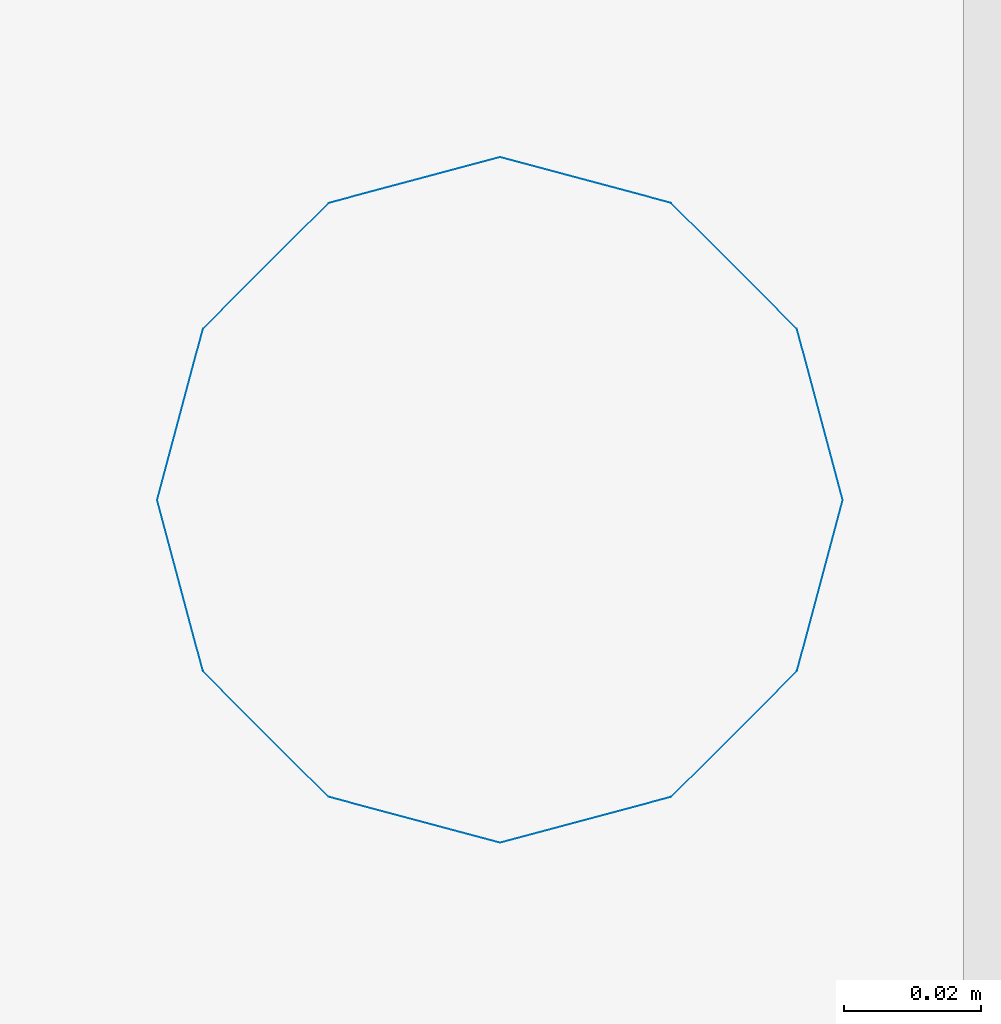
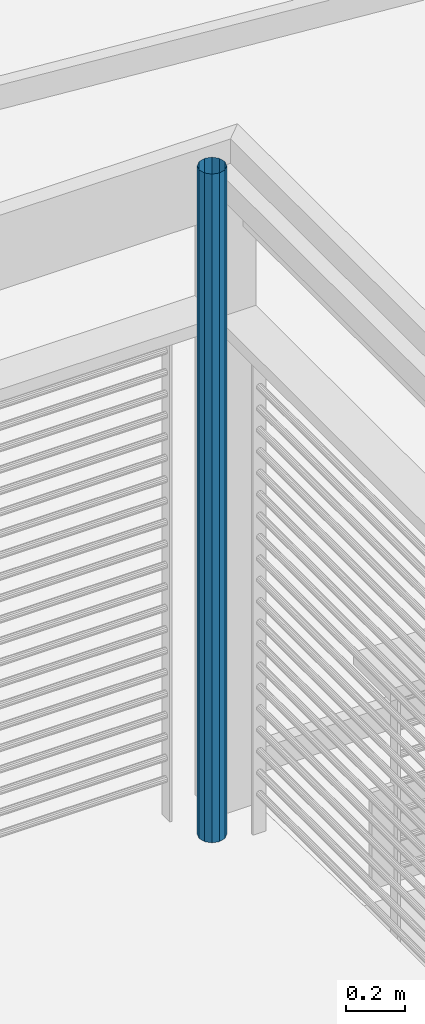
# One storey, part 94 of 171: 1 discrete accessory.
"""IFC2X3 building model written with IfcOpenShell, lengths in millimetres."""

from ifc_helpers import new_model, entity, si_unit, converted_unit, derived_unit, money_unit, direction, frame, origin_with_axes, place, context, subcontext, project, spatial, open_shell, surface_model, source, transform, mapped, type_object, element, save


model = new_model("IFC2X3")

# Units and contexts
model_context = context("Model", 3, precision=0.01, world=origin_with_axes(), true_north=direction((0.0, 1.0)))
body_context = subcontext(model_context, "Body", "Model", "MODEL_VIEW")
ifc_project = project(units=[si_unit("LENGTHUNIT", "METRE", prefix="MILLI"), si_unit("AREAUNIT", "SQUARE_METRE"), si_unit("VOLUMEUNIT", "CUBIC_METRE"), converted_unit("PLANEANGLEUNIT", "DEGREE", entity("IfcPlaneAngleMeasure", 0.0174532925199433), si_unit("PLANEANGLEUNIT", "RADIAN"), dimensions=[0, 0, 0, 0, 0, 0, 0]), money_unit("USD"), converted_unit("TIMEUNIT", "Year", entity("IfcTimeMeasure", 31557600.0), si_unit("TIMEUNIT", "SECOND"), dimensions=[0, 0, 1, 0, 0, 0, 0]), si_unit("MASSUNIT", "GRAM", prefix="KILO"), si_unit("THERMODYNAMICTEMPERATUREUNIT", "DEGREE_CELSIUS"), si_unit("LUMINOUSINTENSITYUNIT", "LUMEN"), si_unit("ENERGYUNIT", "JOULE", prefix="MEGA"), derived_unit("THERMALCONDUCTANCEUNIT", [(si_unit("POWERUNIT", "WATT"), 1), (si_unit("LENGTHUNIT", "METRE"), -1), (si_unit("THERMODYNAMICTEMPERATUREUNIT", "KELVIN"), -1)]), derived_unit("SPECIFICHEATCAPACITYUNIT", [(si_unit("ENERGYUNIT", "JOULE"), 1), (si_unit("MASSUNIT", "GRAM", prefix="KILO"), -1), (si_unit("THERMODYNAMICTEMPERATUREUNIT", "KELVIN"), -1)]), derived_unit("MASSDENSITYUNIT", [(si_unit("MASSUNIT", "GRAM", prefix="KILO"), 1), (si_unit("VOLUMEUNIT", "CUBIC_METRE"), -1)])], contexts=[model_context])

# Site, building, storey
site_placement = place(None, origin_with_axes())
site = spatial("IfcSite", under=ifc_project, at=site_placement, Name="Site", CompositionType="ELEMENT")
building_placement = place(site_placement, origin_with_axes())
building = spatial("IfcBuilding", under=site, at=building_placement, Name="Bâtiment", CompositionType="ELEMENT")
storey_placement = place(building_placement, frame((0.0, 0.0, 3000.0), z_axis=(0.0, 0.0, 1.0), x_axis=(1.0, 0.0, 0.0)))
storey = spatial("IfcBuildingStorey", under=building, at=storey_placement, Name="rdc", CompositionType="ELEMENT", Elevation=3000.0)

# Discrete accessory
discrete_accessory_type = type_object("IfcDiscreteAccessoryType", Name="Tuyau descente 27")
shared_shape = source(origin_with_axes(), body_context, "Body", "SurfaceModel", [
    surface_model("IfcShellBasedSurfaceModel", [(50.0, 0.0, 2750.0), (43.30127018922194, -25.0, 2750.0), (43.30127018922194, -25.0, 0.0), (50.0, 0.0, 0.0), (25.00000000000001, -43.30127018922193, 2750.0), (25.00000000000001, -43.30127018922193, 0.0), (43.30127018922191, 25.00000000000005, 2750.0), (43.30127018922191, 25.00000000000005, 0.0), (0.0, -50.0, 2750.0), (0.0, -50.0, 0.0), (24.99999999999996, 43.30127018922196, 2750.0), (24.99999999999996, 43.30127018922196, 0.0), (-24.99999999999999, -43.30127018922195, 2750.0), (-24.99999999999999, -43.30127018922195, 0.0), (0.0, 50.0, 2750.0), (0.0, 50.0, 0.0), (-43.30127018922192, -25.00000000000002, 2750.0), (-43.30127018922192, -25.00000000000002, 0.0), (-25.00000000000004, 43.30127018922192, 2750.0), (-25.00000000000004, 43.30127018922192, 0.0), (-50.0, 0.0, 2750.0), (-50.0, 0.0, 0.0), (-43.30127018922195, 24.99999999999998, 2750.0), (-43.30127018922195, 24.99999999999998, 0.0)], [open_shell([[[0, 1, 2, 3]], [[1, 4, 5, 2]], [[6, 0, 3, 7]], [[4, 8, 9, 5]], [[10, 6, 7, 11]], [[8, 12, 13, 9]], [[14, 10, 11, 15]], [[12, 16, 17, 13]], [[18, 14, 15, 19]], [[16, 20, 21, 17]], [[22, 18, 19, 23]], [[20, 22, 23, 21]]])]),
])
discrete_accessory_placement = place(storey_placement, frame((2234123.386401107, -631889.5623799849, 0.0), z_axis=(0.0, 0.0, 1.0), x_axis=(1.0, 0.0, 0.0)))
element("IfcDiscreteAccessory", 1, at=discrete_accessory_placement, inside=storey, type_object=discrete_accessory_type, Name="Obj.-318", context=body_context, shape_type="MappedRepresentation", body=[
    mapped(shared_shape, transform((0.0, 0.0, 0.0))),
])

save(model, "model.ifc")
